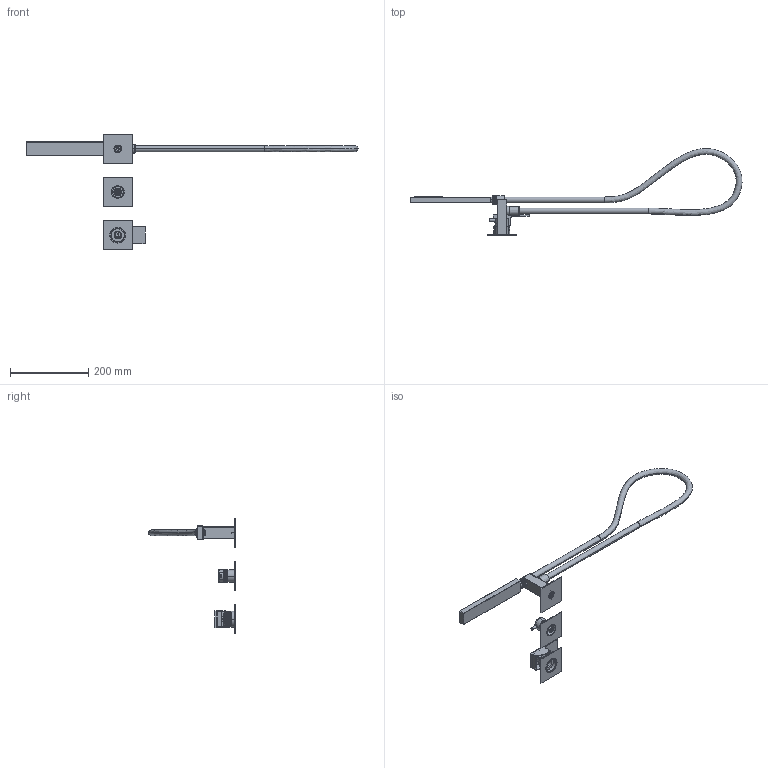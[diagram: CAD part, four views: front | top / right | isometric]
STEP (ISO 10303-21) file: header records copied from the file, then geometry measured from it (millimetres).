
FILE_DESCRIPTION((''),'2;1');
FILE_NAME('3D_SW0002','2024-10-01T11:12:25',('volponeff'),(''),'CREO PARAMETRIC BY PTC INC, 2022014','CREO PARAMETRIC BY PTC INC, 2022014','');
FILE_SCHEMA(('CONFIG_CONTROL_DESIGN'));
Products named in the file (1): 3D_SW0002
Bounding box: 846.16 x 221.1 x 295 mm (x, y, z)
Volume: 463574.8 mm3; surface area: 216579.8 mm2
Topology: 8 solids, 8 shells, 1865 faces, 4658 edges, 2887 vertices
Faces by surface type: cylinder 588, plane 487, torus 368, cone 260, bspline 132, sphere 30
Entity records: 123616 total; most frequent: CARTESIAN_POINT 79920, ORIENTED_EDGE 9264, DIRECTION 9030, EDGE_CURVE 4632, AXIS2_PLACEMENT_3D 3675, VERTEX_POINT 2887, EDGE_LOOP 2063, CIRCLE 1942
